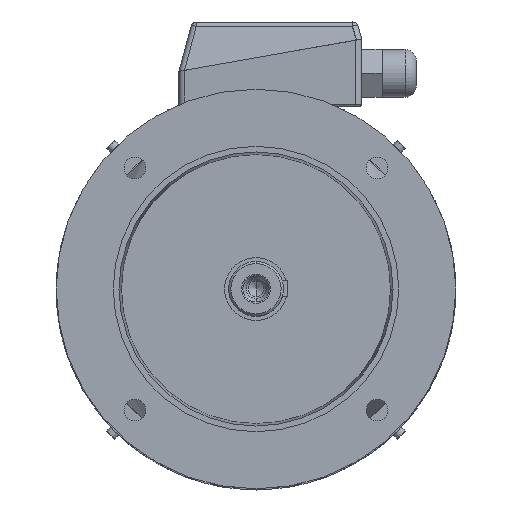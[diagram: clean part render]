
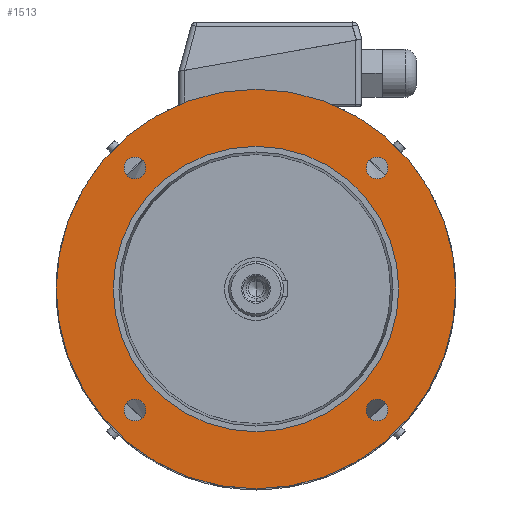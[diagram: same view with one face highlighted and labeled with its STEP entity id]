
A CAD part, top view. The second image highlights one B-rep face of the part: STEP entity #1513.
In plain terms, the highlighted planar face has unit normal (0, 0, 1).
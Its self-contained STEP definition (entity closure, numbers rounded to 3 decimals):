
#81 = EDGE_CURVE ( 'NONE', #1281, #12879, #9434, .T. ) ;
#236 = EDGE_CURVE ( 'NONE', #12879, #1281, #9530, .T. ) ;
#289 = CIRCLE ( 'NONE', #290, 175. ) ;
#290 = AXIS2_PLACEMENT_3D ( 'NONE', #298, #299, #300 ) ;
#298 = CARTESIAN_POINT ( 'NONE',  ( 0., 0., 81. ) ) ;
#299 = DIRECTION ( 'NONE',  ( 0., 0., 1. ) ) ;
#300 = DIRECTION ( 'NONE',  ( 1., 0., 0. ) ) ;
#652 = ORIENTED_EDGE ( 'NONE', *, *, #236, .F. ) ;
#960 = CARTESIAN_POINT ( 'NONE',  ( -175., 0., 81. ) ) ;
#1192 = CARTESIAN_POINT ( 'NONE',  ( -115.566, 106.066, 81. ) ) ;
#1243 = EDGE_LOOP ( 'NONE', ( #652, #12690 ) ) ;
#1281 = VERTEX_POINT ( 'NONE', #10156 ) ;
#1513 = ADVANCED_FACE ( 'NONE', ( #10280, #10285, #10286, #10287, #10288, #10289 ), #10290, .F. ) ;
#2261 = CARTESIAN_POINT ( 'NONE',  ( 115.566, 106.066, 81. ) ) ;
#2319 = VERTEX_POINT ( 'NONE', #10669 ) ;
#2543 = VERTEX_POINT ( 'NONE', #10800 ) ;
#2563 = VERTEX_POINT ( 'NONE', #10810 ) ;
#2814 = EDGE_CURVE ( 'NONE', #2563, #2319, #10933, .T. ) ;
#3549 = CARTESIAN_POINT ( 'NONE',  ( 96.566, -106.066, 81. ) ) ;
#4045 = CIRCLE ( 'NONE', #4046, 9.5 ) ;
#4046 = AXIS2_PLACEMENT_3D ( 'NONE', #4047, #4048, #4049 ) ;
#4047 = CARTESIAN_POINT ( 'NONE',  ( -106.066, 106.066, 81. ) ) ;
#4048 = DIRECTION ( 'NONE',  ( 0., 0., 1. ) ) ;
#4049 = DIRECTION ( 'NONE',  ( 1., 0., 0. ) ) ;
#4989 = CIRCLE ( 'NONE', #4990, 9.5 ) ;
#4990 = AXIS2_PLACEMENT_3D ( 'NONE', #4991, #4992, #4993 ) ;
#4991 = CARTESIAN_POINT ( 'NONE',  ( -106.066, -106.066, 81. ) ) ;
#4992 = DIRECTION ( 'NONE',  ( 0., 0., 1. ) ) ;
#4993 = DIRECTION ( 'NONE',  ( 1., 0., 0. ) ) ;
#5606 = CARTESIAN_POINT ( 'NONE',  ( 115.566, -106.066, 81. ) ) ;
#5650 = CIRCLE ( 'NONE', #5651, 175. ) ;
#5651 = AXIS2_PLACEMENT_3D ( 'NONE', #5652, #5653, #5654 ) ;
#5652 = CARTESIAN_POINT ( 'NONE',  ( 0., 0., 81. ) ) ;
#5653 = DIRECTION ( 'NONE',  ( 0., 0., 1. ) ) ;
#5654 = DIRECTION ( 'NONE',  ( 1., 0., 0. ) ) ;
#5708 = CIRCLE ( 'NONE', #5709, 125. ) ;
#5709 = AXIS2_PLACEMENT_3D ( 'NONE', #5710, #5711, #5712 ) ;
#5710 = CARTESIAN_POINT ( 'NONE',  ( 0., 0., 81. ) ) ;
#5711 = DIRECTION ( 'NONE',  ( 0., 0., 1. ) ) ;
#5712 = DIRECTION ( 'NONE',  ( 1., 0., 0. ) ) ;
#5749 = CIRCLE ( 'NONE', #5750, 9.5 ) ;
#5750 = AXIS2_PLACEMENT_3D ( 'NONE', #5751, #5752, #5753 ) ;
#5751 = CARTESIAN_POINT ( 'NONE',  ( 106.066, -106.066, 81. ) ) ;
#5752 = DIRECTION ( 'NONE',  ( 0., 0., 1. ) ) ;
#5753 = DIRECTION ( 'NONE',  ( 1., 0., 0. ) ) ;
#5853 = CARTESIAN_POINT ( 'NONE',  ( -96.566, -106.066, 81. ) ) ;
#5940 = CIRCLE ( 'NONE', #5941, 9.5 ) ;
#5941 = AXIS2_PLACEMENT_3D ( 'NONE', #5942, #5943, #5944 ) ;
#5942 = CARTESIAN_POINT ( 'NONE',  ( -106.066, -106.066, 81. ) ) ;
#5943 = DIRECTION ( 'NONE',  ( 0., 0., 1. ) ) ;
#5944 = DIRECTION ( 'NONE',  ( 1., 0., 0. ) ) ;
#6383 = CARTESIAN_POINT ( 'NONE',  ( -115.566, -106.066, 81. ) ) ;
#6491 = CARTESIAN_POINT ( 'NONE',  ( -96.566, 106.066, 81. ) ) ;
#6626 = CIRCLE ( 'NONE', #6627, 9.5 ) ;
#6627 = AXIS2_PLACEMENT_3D ( 'NONE', #6628, #6629, #6630 ) ;
#6628 = CARTESIAN_POINT ( 'NONE',  ( -106.066, 106.066, 81. ) ) ;
#6629 = DIRECTION ( 'NONE',  ( 0., 0., 1. ) ) ;
#6630 = DIRECTION ( 'NONE',  ( 1., 0., 0. ) ) ;
#7002 = CIRCLE ( 'NONE', #7003, 9.5 ) ;
#7003 = AXIS2_PLACEMENT_3D ( 'NONE', #7004, #7005, #7006 ) ;
#7004 = CARTESIAN_POINT ( 'NONE',  ( 106.066, -106.066, 81. ) ) ;
#7005 = DIRECTION ( 'NONE',  ( 0., 0., 1. ) ) ;
#7006 = DIRECTION ( 'NONE',  ( 1., 0., 0. ) ) ;
#7281 = EDGE_CURVE ( 'NONE', #2543, #7574, #289, .T. ) ;
#7574 = VERTEX_POINT ( 'NONE', #960 ) ;
#8364 = VERTEX_POINT ( 'NONE', #3549 ) ;
#8457 = ORIENTED_EDGE ( 'NONE', *, *, #10824, .F. ) ;
#8581 = EDGE_CURVE ( 'NONE', #10573, #11842, #4045, .T. ) ;
#8672 = ORIENTED_EDGE ( 'NONE', *, *, #8581, .F. ) ;
#8803 = EDGE_LOOP ( 'NONE', ( #8672, #8457 ) ) ;
#8863 = ORIENTED_EDGE ( 'NONE', *, *, #9398, .F. ) ;
#8993 = EDGE_CURVE ( 'NONE', #9352, #10325, #4989, .T. ) ;
#9101 = ORIENTED_EDGE ( 'NONE', *, *, #8993, .F. ) ;
#9223 = EDGE_LOOP ( 'NONE', ( #9101, #8863 ) ) ;
#9234 = EDGE_LOOP ( 'NONE', ( #9730, #9367 ) ) ;
#9270 = VERTEX_POINT ( 'NONE', #5606 ) ;
#9286 = EDGE_CURVE ( 'NONE', #7574, #2543, #5650, .T. ) ;
#9296 = EDGE_CURVE ( 'NONE', #2319, #2563, #5708, .T. ) ;
#9319 = EDGE_CURVE ( 'NONE', #8364, #9270, #5749, .T. ) ;
#9352 = VERTEX_POINT ( 'NONE', #5853 ) ;
#9367 = ORIENTED_EDGE ( 'NONE', *, *, #9286, .T. ) ;
#9378 = ORIENTED_EDGE ( 'NONE', *, *, #9296, .F. ) ;
#9398 = EDGE_CURVE ( 'NONE', #10325, #9352, #5940, .T. ) ;
#9434 = CIRCLE ( 'NONE', #9435, 9.5 ) ;
#9435 = AXIS2_PLACEMENT_3D ( 'NONE', #9440, #9441, #9442 ) ;
#9440 = CARTESIAN_POINT ( 'NONE',  ( 106.066, 106.066, 81. ) ) ;
#9441 = DIRECTION ( 'NONE',  ( 0., 0., 1. ) ) ;
#9442 = DIRECTION ( 'NONE',  ( 1., 0., 0. ) ) ;
#9530 = CIRCLE ( 'NONE', #9531, 9.5 ) ;
#9531 = AXIS2_PLACEMENT_3D ( 'NONE', #9532, #9533, #9534 ) ;
#9532 = CARTESIAN_POINT ( 'NONE',  ( 106.066, 106.066, 81. ) ) ;
#9533 = DIRECTION ( 'NONE',  ( 0., 0., 1. ) ) ;
#9534 = DIRECTION ( 'NONE',  ( 1., 0., 0. ) ) ;
#9730 = ORIENTED_EDGE ( 'NONE', *, *, #7281, .T. ) ;
#9731 = ORIENTED_EDGE ( 'NONE', *, *, #2814, .F. ) ;
#10156 = CARTESIAN_POINT ( 'NONE',  ( 96.566, 106.066, 81. ) ) ;
#10280 = FACE_BOUND ( 'NONE', #1243, .T. ) ;
#10285 = FACE_BOUND ( 'NONE', #12425, .T. ) ;
#10286 = FACE_BOUND ( 'NONE', #10552, .T. ) ;
#10287 = FACE_OUTER_BOUND ( 'NONE', #9234, .T. ) ;
#10288 = FACE_BOUND ( 'NONE', #9223, .T. ) ;
#10289 = FACE_BOUND ( 'NONE', #8803, .T. ) ;
#10290 = PLANE ( 'NONE',  #10291 ) ;
#10291 = AXIS2_PLACEMENT_3D ( 'NONE', #10292, #10293, #10294 ) ;
#10292 = CARTESIAN_POINT ( 'NONE',  ( 0., 175., 81. ) ) ;
#10293 = DIRECTION ( 'NONE',  ( 0., 0., -1. ) ) ;
#10294 = DIRECTION ( 'NONE',  ( -1., 0., 0. ) ) ;
#10325 = VERTEX_POINT ( 'NONE', #6383 ) ;
#10552 = EDGE_LOOP ( 'NONE', ( #9731, #9378 ) ) ;
#10573 = VERTEX_POINT ( 'NONE', #6491 ) ;
#10669 = CARTESIAN_POINT ( 'NONE',  ( -125., 0., 81. ) ) ;
#10800 = CARTESIAN_POINT ( 'NONE',  ( 175., 0., 81. ) ) ;
#10810 = CARTESIAN_POINT ( 'NONE',  ( 125., 0., 81. ) ) ;
#10824 = EDGE_CURVE ( 'NONE', #11842, #10573, #6626, .T. ) ;
#10826 = ORIENTED_EDGE ( 'NONE', *, *, #9319, .F. ) ;
#10933 = CIRCLE ( 'NONE', #10934, 125. ) ;
#10934 = AXIS2_PLACEMENT_3D ( 'NONE', #10935, #10936, #10937 ) ;
#10935 = CARTESIAN_POINT ( 'NONE',  ( 0., 0., 81. ) ) ;
#10936 = DIRECTION ( 'NONE',  ( 0., 0., 1. ) ) ;
#10937 = DIRECTION ( 'NONE',  ( 1., 0., 0. ) ) ;
#11416 = EDGE_CURVE ( 'NONE', #9270, #8364, #7002, .T. ) ;
#11842 = VERTEX_POINT ( 'NONE', #1192 ) ;
#11843 = ORIENTED_EDGE ( 'NONE', *, *, #11416, .F. ) ;
#12425 = EDGE_LOOP ( 'NONE', ( #11843, #10826 ) ) ;
#12690 = ORIENTED_EDGE ( 'NONE', *, *, #81, .F. ) ;
#12879 = VERTEX_POINT ( 'NONE', #2261 ) ;
